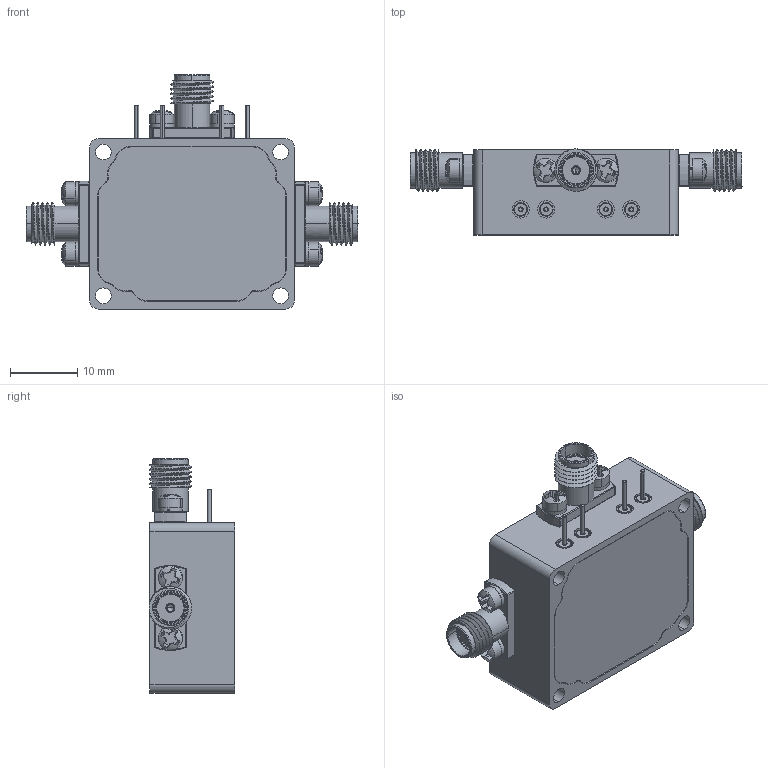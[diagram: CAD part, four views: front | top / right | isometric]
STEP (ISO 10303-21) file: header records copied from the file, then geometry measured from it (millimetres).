
FILE_DESCRIPTION (( 'STEP AP214' ), '1' );
FILE_NAME ('P2T-10M6G-45-R-5V-SFF-HIP20W-HERM.STEP', '2025-12-05T15:37:58', ( '' ), ( '' ), 'SwSTEP 2.0', 'SolidWorks 2025', '' );
FILE_SCHEMA (( 'AUTOMOTIVE_DESIGN' ));
Length unit declared in the file: inch
Products named in the file (1): P2T-10M6G-45-R-5V-SFF-HIP20W-HERM
Bounding box: 49.53 x 12.8 x 34.92 mm (x, y, z)
Volume: 10310.4 mm3; surface area: 8020.5 mm2
Topology: 28 solids, 28 shells, 2332 faces, 5994 edges, 3869 vertices
Faces by surface type: plane 1199, bspline 512, cylinder 345, torus 174, cone 66, sphere 36
Entity records: 119238 total; most frequent: CARTESIAN_POINT 35316, ORIENTED_EDGE 11892, DIRECTION 9662, EDGE_CURVE 5946, VERTEX_POINT 3869, VECTOR 3596, LINE 3596, AXIS2_PLACEMENT_3D 3033
